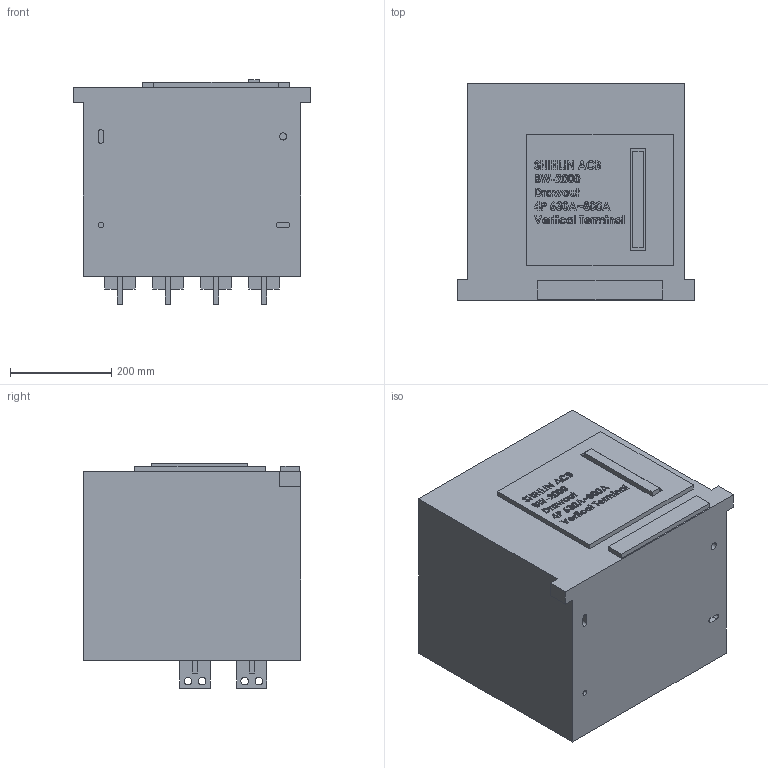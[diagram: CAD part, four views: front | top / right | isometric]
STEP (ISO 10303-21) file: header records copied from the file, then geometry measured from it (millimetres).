
FILE_DESCRIPTION (( 'STEP AP203' ), '1' );
FILE_NAME ('BW-2000-Drawout-4P-630-800A-Vertical Terminal.STEP', '2016-11-03T01:06:55', ( '' ), ( '' ), 'SwSTEP 2.0', 'SolidWorks 2015', '' );
FILE_SCHEMA (( 'CONFIG_CONTROL_DESIGN' ));
Products named in the file (1): BW-2000-Drawout-4P-630-800A-Vertical Terminal
Bounding box: 470 x 430 x 443.5 mm (x, y, z)
Volume: 70227747.8 mm3; surface area: 1162813.3 mm2
Topology: 1 solids, 1 shells, 827 faces, 2193 edges, 1462 vertices
Faces by surface type: plane 523, bspline 263, cylinder 41
Entity records: 39396 total; most frequent: CARTESIAN_POINT 20410, ORIENTED_EDGE 4386, DIRECTION 2879, EDGE_CURVE 2193, VECTOR 1585, LINE 1585, VERTEX_POINT 1462, EDGE_LOOP 953
